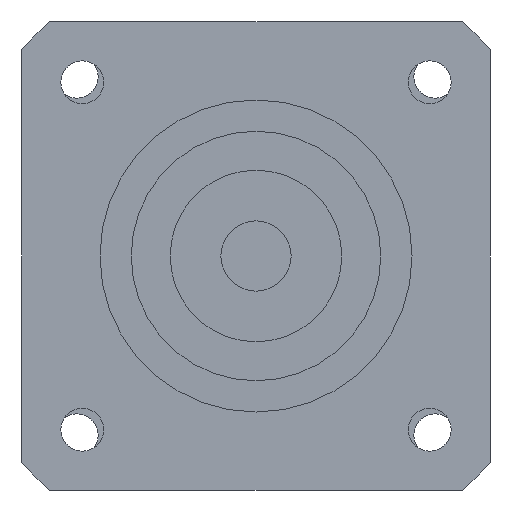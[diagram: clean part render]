
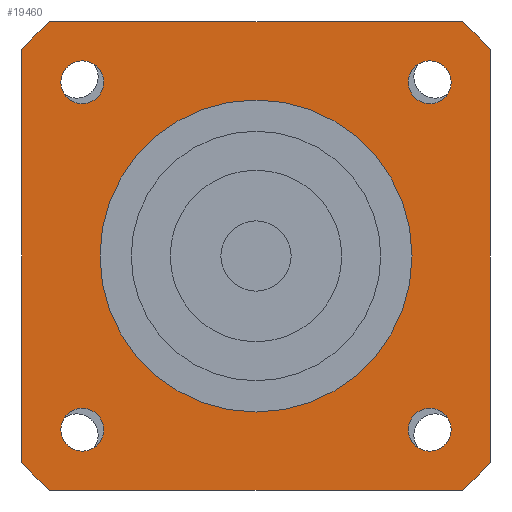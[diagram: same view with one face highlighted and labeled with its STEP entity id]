
A CAD part, left-side view. The second image highlights one B-rep face of the part: STEP entity #19460.
In plain terms, the highlighted planar face has unit normal (-1, 0, 0) as drawn and (0, 0, -1) by its records, which use the part's own axes.
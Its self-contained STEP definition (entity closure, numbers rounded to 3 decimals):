
#11110=CARTESIAN_POINT('',(-30.,26.458,-58.));
#11120=VERTEX_POINT('',#11110);
#11270=CARTESIAN_POINT('',(-30.,-26.458,-58.));
#11280=VERTEX_POINT('',#11270);
#11310=CARTESIAN_POINT('',(-30.,30.,-58.));
#11320=DIRECTION('',(0.,-1.,0.));
#11330=VECTOR('',#11320,1000.);
#11340=LINE('',#11310,#11330);
#11350=EDGE_CURVE('',#11120,#11280,#11340,.T.);
#12850=CARTESIAN_POINT('',(26.458,30.,-58.));
#12860=VERTEX_POINT('',#12850);
#13010=CARTESIAN_POINT('',(-26.458,30.,-58.));
#13020=VERTEX_POINT('',#13010);
#13050=CARTESIAN_POINT('',(30.,30.,-58.));
#13060=DIRECTION('',(-1.,0.,0.));
#13070=VECTOR('',#13060,1000.);
#13080=LINE('',#13050,#13070);
#13090=EDGE_CURVE('',#12860,#13020,#13080,.T.);
#17900=CARTESIAN_POINT('',(0.,0.,
-58.));
#17910=DIRECTION('',(0.,0.,1.));
#17920=DIRECTION('',(0.,-1.,0.));
#17930=AXIS2_PLACEMENT_3D('',#17900,#17910,#17920);
#17940=CIRCLE('',#17930,40.);
#17950=EDGE_CURVE('',#13020,#11120,#17940,.T.);
#18000=CARTESIAN_POINT('',(-30.,30.,-58.));
#18010=DIRECTION('',(0.,0.,1.));
#18020=DIRECTION('',(-1.,0.,0.));
#18030=AXIS2_PLACEMENT_3D('',#18000,#18010,#18020);
#18040=PLANE('',#18030);
#18050=CARTESIAN_POINT('',(22.274,-22.274,-58.));
#18060=DIRECTION('',(0.,0.,-1.));
#18070=DIRECTION('',(1.,0.,0.));
#18080=AXIS2_PLACEMENT_3D('',#18050,#18060,#18070);
#18090=CIRCLE('',#18080,2.75);
#18100=CARTESIAN_POINT('',(25.024,-22.274,-58.));
#18110=VERTEX_POINT('',#18100);
#18120=CARTESIAN_POINT('',(22.274,-25.024,-58.));
#18130=VERTEX_POINT('',#18120);
#18140=EDGE_CURVE('',#18110,#18130,#18090,.T.);
#18150=ORIENTED_EDGE('',*,*,#18140,.F.);
#18160=CARTESIAN_POINT('',(22.274,-19.524,-58.));
#18170=VERTEX_POINT('',#18160);
#18180=EDGE_CURVE('',#18130,#18170,#18090,.T.);
#18190=ORIENTED_EDGE('',*,*,#18180,.F.);
#18200=EDGE_CURVE('',#18170,#18110,#18090,.T.);
#18210=ORIENTED_EDGE('',*,*,#18200,.F.);
#18220=EDGE_LOOP('',(#18210,#18190,#18150));
#18230=FACE_BOUND('',#18220,.T.);
#18240=CARTESIAN_POINT('',(22.274,22.274,-58.));
#18250=DIRECTION('',(0.,0.,-1.));
#18260=DIRECTION('',(0.,1.,0.));
#18270=AXIS2_PLACEMENT_3D('',#18240,#18250,#18260);
#18280=CIRCLE('',#18270,2.75);
#18290=CARTESIAN_POINT('',(22.274,25.024,-58.));
#18300=VERTEX_POINT('',#18290);
#18310=CARTESIAN_POINT('',(25.024,22.274,-58.));
#18320=VERTEX_POINT('',#18310);
#18330=EDGE_CURVE('',#18300,#18320,#18280,.T.);
#18340=ORIENTED_EDGE('',*,*,#18330,.F.);
#18350=CARTESIAN_POINT('',(19.524,22.274,-58.));
#18360=VERTEX_POINT('',#18350);
#18370=EDGE_CURVE('',#18320,#18360,#18280,.T.);
#18380=ORIENTED_EDGE('',*,*,#18370,.F.);
#18390=EDGE_CURVE('',#18360,#18300,#18280,.T.);
#18400=ORIENTED_EDGE('',*,*,#18390,.F.);
#18410=EDGE_LOOP('',(#18400,#18380,#18340));
#18420=FACE_BOUND('',#18410,.T.);
#18430=CARTESIAN_POINT('',(-22.274,22.274,-58.));
#18440=DIRECTION('',(0.,0.,-1.));
#18450=DIRECTION('',(-1.,0.,0.));
#18460=AXIS2_PLACEMENT_3D('',#18430,#18440,#18450);
#18470=CIRCLE('',#18460,2.75);
#18480=CARTESIAN_POINT('',(-25.024,22.274,-58.));
#18490=VERTEX_POINT('',#18480);
#18500=CARTESIAN_POINT('',(-22.274,25.024,-58.));
#18510=VERTEX_POINT('',#18500);
#18520=EDGE_CURVE('',#18490,#18510,#18470,.T.);
#18530=ORIENTED_EDGE('',*,*,#18520,.F.);
#18540=CARTESIAN_POINT('',(-22.274,19.524,-58.));
#18550=VERTEX_POINT('',#18540);
#18560=EDGE_CURVE('',#18510,#18550,#18470,.T.);
#18570=ORIENTED_EDGE('',*,*,#18560,.F.);
#18580=EDGE_CURVE('',#18550,#18490,#18470,.T.);
#18590=ORIENTED_EDGE('',*,*,#18580,.F.);
#18600=EDGE_LOOP('',(#18590,#18570,#18530));
#18610=FACE_BOUND('',#18600,.T.);
#18620=CARTESIAN_POINT('',(-22.274,-22.274,-58.));
#18630=DIRECTION('',(0.,0.,-1.));
#18640=DIRECTION('',(0.,-1.,0.));
#18650=AXIS2_PLACEMENT_3D('',#18620,#18630,#18640);
#18660=CIRCLE('',#18650,2.75);
#18670=CARTESIAN_POINT('',(-22.274,-25.024,-58.));
#18680=VERTEX_POINT('',#18670);
#18690=CARTESIAN_POINT('',(-25.024,-22.274,-58.));
#18700=VERTEX_POINT('',#18690);
#18710=EDGE_CURVE('',#18680,#18700,#18660,.T.);
#18720=ORIENTED_EDGE('',*,*,#18710,.F.);
#18730=CARTESIAN_POINT('',(-19.524,-22.274,-58.));
#18740=VERTEX_POINT('',#18730);
#18750=EDGE_CURVE('',#18700,#18740,#18660,.T.);
#18760=ORIENTED_EDGE('',*,*,#18750,.F.);
#18770=EDGE_CURVE('',#18740,#18680,#18660,.T.);
#18780=ORIENTED_EDGE('',*,*,#18770,.F.);
#18790=EDGE_LOOP('',(#18780,#18760,#18720));
#18800=FACE_BOUND('',#18790,.T.);
#18810=CARTESIAN_POINT('',(0.,0.,
-58.));
#18820=DIRECTION('',(0.,0.,1.));
#18830=DIRECTION('',(0.,-1.,0.));
#18840=AXIS2_PLACEMENT_3D('',#18810,#18820,#18830);
#18850=CIRCLE('',#18840,40.);
#18860=CARTESIAN_POINT('',(-26.458,-30.,-58.));
#18870=VERTEX_POINT('',#18860);
#18880=EDGE_CURVE('',#11280,#18870,#18850,.T.);
#18890=ORIENTED_EDGE('',*,*,#18880,.F.);
#18900=CARTESIAN_POINT('',(-30.,-30.,-58.));
#18910=DIRECTION('',(1.,0.,0.));
#18920=VECTOR('',#18910,1000.);
#18930=LINE('',#18900,#18920);
#18940=CARTESIAN_POINT('',(26.458,-30.,-58.));
#18950=VERTEX_POINT('',#18940);
#18960=EDGE_CURVE('',#18870,#18950,#18930,.T.);
#18970=ORIENTED_EDGE('',*,*,#18960,.F.);
#18980=CARTESIAN_POINT('',(0.,0.,
-58.));
#18990=DIRECTION('',(0.,0.,1.));
#19000=DIRECTION('',(0.,-1.,0.));
#19010=AXIS2_PLACEMENT_3D('',#18980,#18990,#19000);
#19020=CIRCLE('',#19010,40.);
#19030=CARTESIAN_POINT('',(30.,-26.458,-58.));
#19040=VERTEX_POINT('',#19030);
#19050=EDGE_CURVE('',#18950,#19040,#19020,.T.);
#19060=ORIENTED_EDGE('',*,*,#19050,.F.);
#19070=CARTESIAN_POINT('',(30.,-30.,-58.));
#19080=DIRECTION('',(0.,1.,0.));
#19090=VECTOR('',#19080,1000.);
#19100=LINE('',#19070,#19090);
#19110=CARTESIAN_POINT('',(30.,26.458,-58.));
#19120=VERTEX_POINT('',#19110);
#19130=EDGE_CURVE('',#19040,#19120,#19100,.T.);
#19140=ORIENTED_EDGE('',*,*,#19130,.F.);
#19150=CARTESIAN_POINT('',(0.,0.,
-58.));
#19160=DIRECTION('',(0.,0.,1.));
#19170=DIRECTION('',(0.,-1.,0.));
#19180=AXIS2_PLACEMENT_3D('',#19150,#19160,#19170);
#19190=CIRCLE('',#19180,40.);
#19200=EDGE_CURVE('',#19120,#12860,#19190,.T.);
#19210=ORIENTED_EDGE('',*,*,#19200,.F.);
#19220=ORIENTED_EDGE('',*,*,#13090,.F.);
#19230=ORIENTED_EDGE('',*,*,#17950,.F.);
#19240=ORIENTED_EDGE('',*,*,#11350,.F.);
#19250=EDGE_LOOP('',(#19240,#19230,#19220,#19210,#19140,#19060,#18970,
#18890));
#19260=FACE_OUTER_BOUND('',#19250,.T.);
#19270=CARTESIAN_POINT('',(0.,0.,
-58.));
#19280=DIRECTION('',(0.,0.,1.));
#19290=DIRECTION('',(0.,-1.,0.));
#19300=AXIS2_PLACEMENT_3D('',#19270,#19280,#19290);
#19310=CIRCLE('',#19300,20.);
#19320=CARTESIAN_POINT('',(20.,0.,-58.));
#19330=VERTEX_POINT('',#19320);
#19340=CARTESIAN_POINT('',(-20.,0.,-58.));
#19350=VERTEX_POINT('',#19340);
#19360=EDGE_CURVE('',#19330,#19350,#19310,.T.);
#19370=ORIENTED_EDGE('',*,*,#19360,.T.);
#19380=CARTESIAN_POINT('',(0.,-20.,-58.));
#19390=VERTEX_POINT('',#19380);
#19400=EDGE_CURVE('',#19390,#19330,#19310,.T.);
#19410=ORIENTED_EDGE('',*,*,#19400,.T.);
#19420=EDGE_CURVE('',#19350,#19390,#19310,.T.);
#19430=ORIENTED_EDGE('',*,*,#19420,.T.);
#19440=EDGE_LOOP('',(#19430,#19410,#19370));
#19450=FACE_BOUND('',#19440,.T.);
#19460=ADVANCED_FACE('',(#18230,#18420,#18610,#18800,#19260,#19450),
#18040,.F.);
